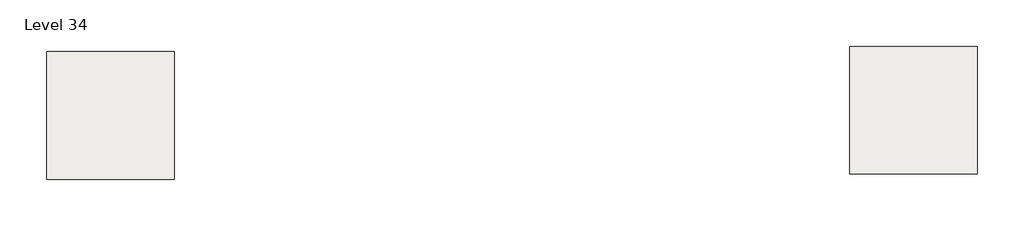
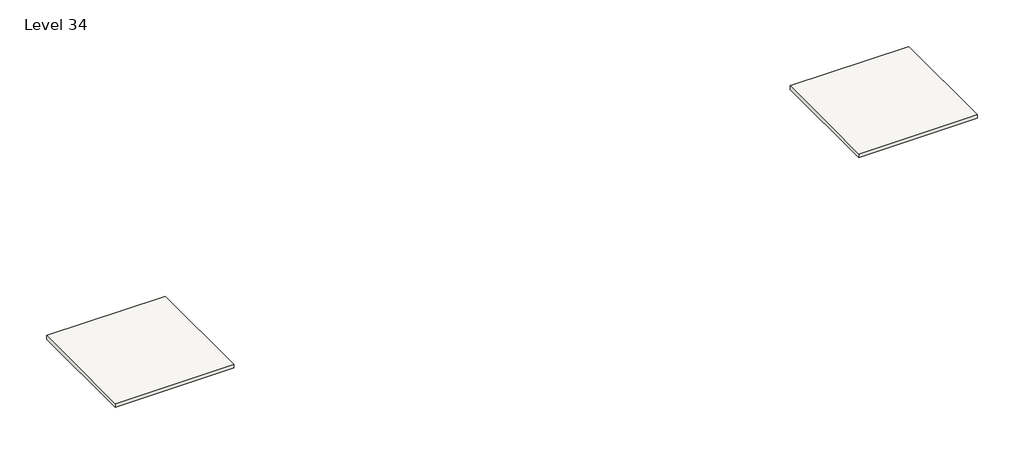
# One storey: 2 slabs.
"""IFC4 building model written with IfcOpenShell, lengths in millimetres."""

from ifc_helpers import new_model, si_unit, frame, origin, place, context, project, spatial, polyline, outline, extrude, element, save

model = new_model("IFC4")

# Units and contexts
model_context = context("Model", 3, world=origin())
ifc_project = project(units=[si_unit("LENGTHUNIT", "METRE", prefix="MILLI")], contexts=[model_context])

# Site, building, storey
site = spatial("IfcSite", under=ifc_project)
building = spatial("IfcBuilding", under=site)
storey = spatial("IfcBuildingStorey", under=building, Name="Level 34", Elevation=100584.0)

# Slabs
placement = place(None, origin())
element("IfcSlab", 1, ObjectType="Generic - 12\"", at=placement, inside=storey, context=model_context, shape_type="SweptSolid", body=[
    extrude(outline(polyline([(-8641.8488996, 6449.9495511), (-8641.8488996, -2694.0504489), (-17785.8488996, -2694.0504489), (-17785.8488996, 6449.9495511), (-8641.8488996, 6449.9495511)])), frame((0.0, 0.0, 100279.2), z_axis=(0.0, 0.0, 1.0), x_axis=(1.0, 0.0, 0.0)), (0.0, 0.0, 1.0), 304.8),
])
element("IfcSlab", 2, ObjectType="Generic - 12\"", at=placement, inside=storey, context=model_context, shape_type="SweptSolid", body=[
    extrude(outline(polyline([(48791.8576677, 6827.0904402), (48791.8576677, -2316.9095598), (39647.8576677, -2316.9095598), (39647.8576677, 6827.0904402), (48791.8576677, 6827.0904402)])), frame((0.0, 0.0, 100279.2), z_axis=(0.0, 0.0, 1.0), x_axis=(1.0, 0.0, 0.0)), (0.0, 0.0, 1.0), 304.8),
])

save(model, "model.ifc")
